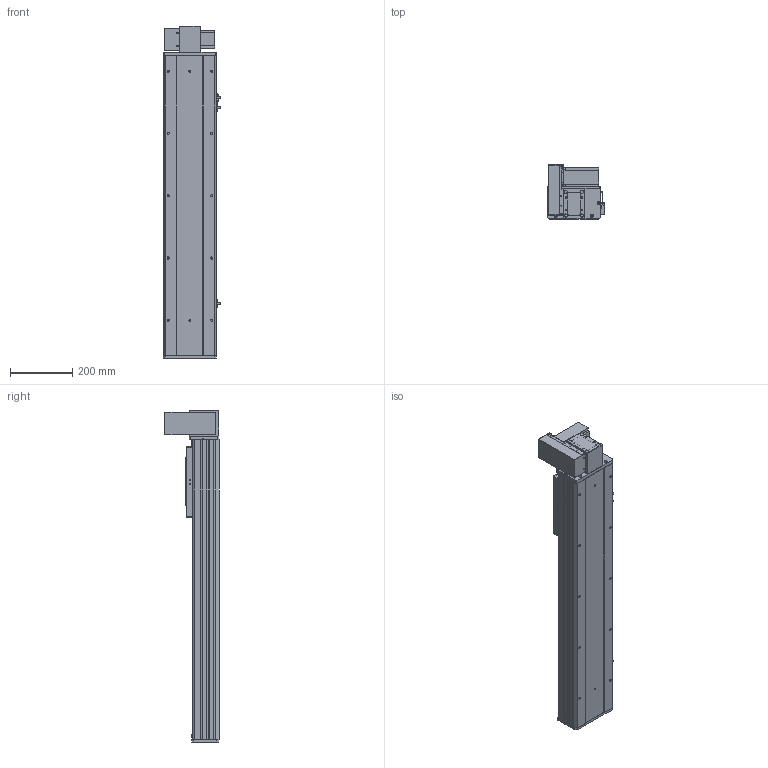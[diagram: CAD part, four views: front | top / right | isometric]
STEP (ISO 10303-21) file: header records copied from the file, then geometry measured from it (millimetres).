
FILE_DESCRIPTION (( 'STEP AP203' ), '1' );
FILE_NAME ('Y170CB-D105-S650-UL-P400W.STEP', '2020-02-20T02:14:26', ( '微软用户' ), ( '微软中国' ), 'SwSTEP 2.0', 'SolidWorks 2017', '' );
FILE_SCHEMA (( 'CONFIG_CONTROL_DESIGN' ));
Length unit declared in the file: millimetre
Products named in the file (18): 70C--詩湍揤踡え-; 17B-耜蚾蟀諉啣----; 70CB--耜裔; 00B-俋欶BM--163; 70C-雄赽釱-奻-; B-源倛裔啣; Y170CB-D105-S650-UL-P400W; 0C--雄赽釱俋欶-170; 0B-萇儂楊擘啣; 70CB-詩湍--; san松下电机400不带刹车----; Y100-135俋离換覜ん--; 70CB-掛极-; Y170CB-陔俋离換覜結え---; --70CB --喘謫眊楊擘啣-; 70B喘謫眊----; 70CB-耜裔啣-; Y1埴倛裔
Assembly tree (21 placements, depth 2):
  Y170CB-D105-S650-UL-P400W
    B-源倛裔啣
    0B-萇儂楊擘啣
    san松下电机400不带刹车----
    70CB-掛极-
    --70CB --喘謫眊楊擘啣-
    70CB-耜裔啣-  x2
    70C--詩湍揤踡え-  x2
    70CB--耜裔
    70C-雄赽釱-奻-
    0C--雄赽釱俋欶-170
    70CB-詩湍--
    Y100-135俋离換覜ん--  x3
    Y170CB-陔俋离換覜結え---
    70B喘謫眊----
    Y1埴倛裔
    17B-耜蚾蟀諉啣----
    00B-俋欶BM--163
Bounding box: 183.5 x 174 x 1066 mm (x, y, z)
Volume: 5161826 mm3; surface area: 1841886.9 mm2
Topology: 21 solids, 21 shells, 991 faces, 2645 edges, 1754 vertices
Faces by surface type: cylinder 505, plane 462, cone 24
Entity records: 31452 total; most frequent: CARTESIAN_POINT 5736, DIRECTION 5114, ORIENTED_EDGE 4772, EDGE_CURVE 2386, AXIS2_PLACEMENT_3D 1868, VERTEX_POINT 1584, LINE 1378, VECTOR 1378
